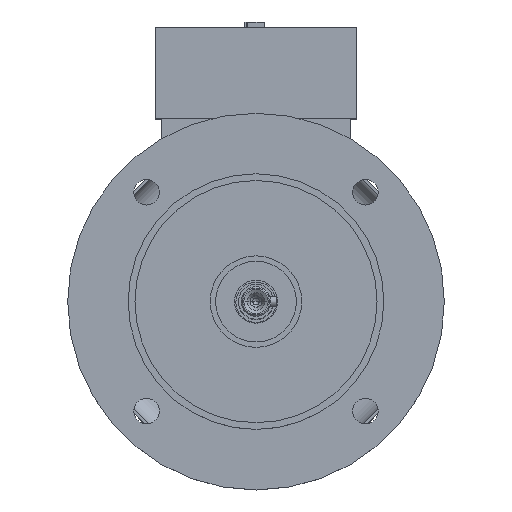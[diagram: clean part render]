
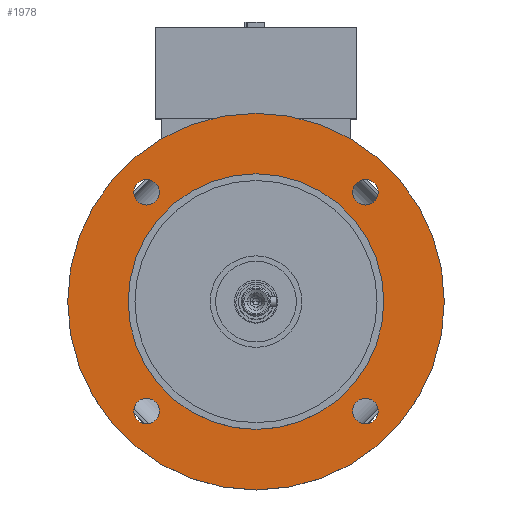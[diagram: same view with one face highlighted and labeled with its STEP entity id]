
A CAD part, top view. The second image highlights one B-rep face of the part: STEP entity #1978.
In plain terms, the highlighted planar face has unit normal (0, 0, 1).
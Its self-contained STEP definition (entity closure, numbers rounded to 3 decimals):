
#16 = CARTESIAN_POINT ( 'NONE',  ( -40.659, -40.659, 80. ) ) ;
#64 = CIRCLE ( 'NONE', #12092, 47.5 ) ;
#118 = AXIS2_PLACEMENT_3D ( 'NONE', #11710, #9525, #2984 ) ;
#273 = CIRCLE ( 'NONE', #10984, 4.75 ) ;
#291 = CIRCLE ( 'NONE', #8524, 70. ) ;
#352 = VERTEX_POINT ( 'NONE', #7012 ) ;
#392 = FACE_BOUND ( 'NONE', #2374, .T. ) ;
#422 = EDGE_CURVE ( 'NONE', #9051, #1855, #12487, .T. ) ;
#543 = DIRECTION ( 'NONE',  ( 1., 0., 0. ) ) ;
#550 = EDGE_CURVE ( 'NONE', #13145, #352, #2663, .T. ) ;
#558 = DIRECTION ( 'NONE',  ( 1., 0., 0. ) ) ;
#584 = CARTESIAN_POINT ( 'NONE',  ( -35.909, 40.659, 80. ) ) ;
#617 = ORIENTED_EDGE ( 'NONE', *, *, #550, .T. ) ;
#732 = EDGE_CURVE ( 'NONE', #1855, #9051, #9578, .T. ) ;
#772 = DIRECTION ( 'NONE',  ( 1., 0., 0. ) ) ;
#1118 = DIRECTION ( 'NONE',  ( 0., 0., 1. ) ) ;
#1139 = DIRECTION ( 'NONE',  ( 1., 0., 0. ) ) ;
#1394 = EDGE_CURVE ( 'NONE', #9315, #6567, #11952, .T. ) ;
#1458 = ORIENTED_EDGE ( 'NONE', *, *, #422, .F. ) ;
#1819 = CARTESIAN_POINT ( 'NONE',  ( -40.659, 40.659, 80. ) ) ;
#1841 = CARTESIAN_POINT ( 'NONE',  ( 70., 0., 80. ) ) ;
#1855 = VERTEX_POINT ( 'NONE', #584 ) ;
#1978 = ADVANCED_FACE ( 'NONE', ( #2778, #7322, #4946, #392, #13317, #4615 ), #10760, .F. ) ;
#2065 = CARTESIAN_POINT ( 'NONE',  ( 0., 0., 80. ) ) ;
#2098 = DIRECTION ( 'NONE',  ( 0., 0., -1. ) ) ;
#2105 = EDGE_LOOP ( 'NONE', ( #12303, #13533 ) ) ;
#2168 = DIRECTION ( 'NONE',  ( 1., 0., 0. ) ) ;
#2248 = DIRECTION ( 'NONE',  ( -1., 0., 0. ) ) ;
#2306 = ORIENTED_EDGE ( 'NONE', *, *, #1394, .F. ) ;
#2374 = EDGE_LOOP ( 'NONE', ( #9830, #1458 ) ) ;
#2386 = EDGE_CURVE ( 'NONE', #5828, #12341, #7474, .T. ) ;
#2579 = CIRCLE ( 'NONE', #11353, 4.75 ) ;
#2663 = CIRCLE ( 'NONE', #118, 70. ) ;
#2699 = EDGE_LOOP ( 'NONE', ( #13710, #13868 ) ) ;
#2778 = FACE_BOUND ( 'NONE', #6692, .T. ) ;
#2984 = DIRECTION ( 'NONE',  ( 1., 0., 0. ) ) ;
#3146 = DIRECTION ( 'NONE',  ( 1., 0., 0. ) ) ;
#3221 = VERTEX_POINT ( 'NONE', #5978 ) ;
#3264 = DIRECTION ( 'NONE',  ( 1., 0., 0. ) ) ;
#3396 = AXIS2_PLACEMENT_3D ( 'NONE', #3769, #13695, #543 ) ;
#3605 = DIRECTION ( 'NONE',  ( 0., 0., 1. ) ) ;
#3647 = CARTESIAN_POINT ( 'NONE',  ( 40.659, -40.659, 80. ) ) ;
#3769 = CARTESIAN_POINT ( 'NONE',  ( 0., 0., 80. ) ) ;
#3882 = VERTEX_POINT ( 'NONE', #8179 ) ;
#4102 = CARTESIAN_POINT ( 'NONE',  ( 0., 0., 80. ) ) ;
#4241 = DIRECTION ( 'NONE',  ( 0., 0., 1. ) ) ;
#4495 = DIRECTION ( 'NONE',  ( 0., 0., 1. ) ) ;
#4537 = CARTESIAN_POINT ( 'NONE',  ( 45.409, 40.659, 80. ) ) ;
#4540 = DIRECTION ( 'NONE',  ( 0., 0., 1. ) ) ;
#4615 = FACE_OUTER_BOUND ( 'NONE', #5699, .T. ) ;
#4906 = CARTESIAN_POINT ( 'NONE',  ( -45.409, 40.659, 80. ) ) ;
#4946 = FACE_BOUND ( 'NONE', #2699, .T. ) ;
#5113 = EDGE_CURVE ( 'NONE', #6567, #9315, #13437, .T. ) ;
#5692 = CARTESIAN_POINT ( 'NONE',  ( 35.909, -40.659, 80. ) ) ;
#5699 = EDGE_LOOP ( 'NONE', ( #617, #8949 ) ) ;
#5828 = VERTEX_POINT ( 'NONE', #5692 ) ;
#5978 = CARTESIAN_POINT ( 'NONE',  ( -45.409, -40.659, 80. ) ) ;
#6253 = DIRECTION ( 'NONE',  ( 0., 0., 1. ) ) ;
#6443 = DIRECTION ( 'NONE',  ( 0., 0., 1. ) ) ;
#6567 = VERTEX_POINT ( 'NONE', #8804 ) ;
#6692 = EDGE_LOOP ( 'NONE', ( #2306, #12806 ) ) ;
#6739 = AXIS2_PLACEMENT_3D ( 'NONE', #8575, #2098, #2248 ) ;
#6851 = CARTESIAN_POINT ( 'NONE',  ( -47.5, 0., 80. ) ) ;
#6892 = EDGE_CURVE ( 'NONE', #352, #13145, #291, .T. ) ;
#7012 = CARTESIAN_POINT ( 'NONE',  ( -70., 0., 80. ) ) ;
#7111 = EDGE_CURVE ( 'NONE', #9822, #11305, #14037, .T. ) ;
#7164 = ORIENTED_EDGE ( 'NONE', *, *, #7111, .F. ) ;
#7322 = FACE_BOUND ( 'NONE', #2105, .T. ) ;
#7444 = CARTESIAN_POINT ( 'NONE',  ( 40.659, 40.659, 80. ) ) ;
#7459 = ORIENTED_EDGE ( 'NONE', *, *, #14058, .F. ) ;
#7474 = CIRCLE ( 'NONE', #10659, 4.75 ) ;
#7680 = CARTESIAN_POINT ( 'NONE',  ( 40.659, -40.659, 80. ) ) ;
#7752 = CIRCLE ( 'NONE', #8696, 4.75 ) ;
#7958 = CARTESIAN_POINT ( 'NONE',  ( 47.5, 0., 80. ) ) ;
#8179 = CARTESIAN_POINT ( 'NONE',  ( -35.909, -40.659, 80. ) ) ;
#8524 = AXIS2_PLACEMENT_3D ( 'NONE', #2065, #4241, #8584 ) ;
#8545 = CARTESIAN_POINT ( 'NONE',  ( -40.659, -40.659, 80. ) ) ;
#8575 = CARTESIAN_POINT ( 'NONE',  ( 0., 47.5, 80. ) ) ;
#8584 = DIRECTION ( 'NONE',  ( 1., 0., 0. ) ) ;
#8656 = DIRECTION ( 'NONE',  ( 0., 0., 1. ) ) ;
#8663 = CARTESIAN_POINT ( 'NONE',  ( 40.659, 40.659, 80. ) ) ;
#8696 = AXIS2_PLACEMENT_3D ( 'NONE', #8545, #8656, #3264 ) ;
#8804 = CARTESIAN_POINT ( 'NONE',  ( 35.909, 40.659, 80. ) ) ;
#8949 = ORIENTED_EDGE ( 'NONE', *, *, #6892, .T. ) ;
#8989 = AXIS2_PLACEMENT_3D ( 'NONE', #8663, #4540, #9896 ) ;
#9051 = VERTEX_POINT ( 'NONE', #4906 ) ;
#9315 = VERTEX_POINT ( 'NONE', #4537 ) ;
#9525 = DIRECTION ( 'NONE',  ( 0., 0., 1. ) ) ;
#9576 = DIRECTION ( 'NONE',  ( 0., 0., 1. ) ) ;
#9578 = CIRCLE ( 'NONE', #10367, 4.75 ) ;
#9593 = DIRECTION ( 'NONE',  ( 1., 0., 0. ) ) ;
#9822 = VERTEX_POINT ( 'NONE', #7958 ) ;
#9830 = ORIENTED_EDGE ( 'NONE', *, *, #732, .F. ) ;
#9896 = DIRECTION ( 'NONE',  ( 1., 0., 0. ) ) ;
#10012 = CARTESIAN_POINT ( 'NONE',  ( -40.659, 40.659, 80. ) ) ;
#10103 = AXIS2_PLACEMENT_3D ( 'NONE', #1819, #13794, #772 ) ;
#10239 = EDGE_CURVE ( 'NONE', #3882, #3221, #2579, .T. ) ;
#10367 = AXIS2_PLACEMENT_3D ( 'NONE', #10012, #6253, #558 ) ;
#10659 = AXIS2_PLACEMENT_3D ( 'NONE', #7680, #6443, #2168 ) ;
#10760 = PLANE ( 'NONE',  #6739 ) ;
#10933 = CARTESIAN_POINT ( 'NONE',  ( 45.409, -40.659, 80. ) ) ;
#10984 = AXIS2_PLACEMENT_3D ( 'NONE', #3647, #3605, #11190 ) ;
#11190 = DIRECTION ( 'NONE',  ( 1., 0., 0. ) ) ;
#11305 = VERTEX_POINT ( 'NONE', #6851 ) ;
#11353 = AXIS2_PLACEMENT_3D ( 'NONE', #16, #4495, #1139 ) ;
#11378 = EDGE_LOOP ( 'NONE', ( #7164, #7459 ) ) ;
#11710 = CARTESIAN_POINT ( 'NONE',  ( 0., 0., 80. ) ) ;
#11952 = CIRCLE ( 'NONE', #12662, 4.75 ) ;
#12092 = AXIS2_PLACEMENT_3D ( 'NONE', #4102, #9576, #3146 ) ;
#12291 = EDGE_CURVE ( 'NONE', #3221, #3882, #7752, .T. ) ;
#12303 = ORIENTED_EDGE ( 'NONE', *, *, #13014, .F. ) ;
#12341 = VERTEX_POINT ( 'NONE', #10933 ) ;
#12487 = CIRCLE ( 'NONE', #10103, 4.75 ) ;
#12662 = AXIS2_PLACEMENT_3D ( 'NONE', #7444, #1118, #9593 ) ;
#12806 = ORIENTED_EDGE ( 'NONE', *, *, #5113, .F. ) ;
#13014 = EDGE_CURVE ( 'NONE', #12341, #5828, #273, .T. ) ;
#13145 = VERTEX_POINT ( 'NONE', #1841 ) ;
#13317 = FACE_BOUND ( 'NONE', #11378, .T. ) ;
#13437 = CIRCLE ( 'NONE', #8989, 4.75 ) ;
#13533 = ORIENTED_EDGE ( 'NONE', *, *, #2386, .F. ) ;
#13695 = DIRECTION ( 'NONE',  ( 0., 0., 1. ) ) ;
#13710 = ORIENTED_EDGE ( 'NONE', *, *, #10239, .F. ) ;
#13794 = DIRECTION ( 'NONE',  ( 0., 0., 1. ) ) ;
#13868 = ORIENTED_EDGE ( 'NONE', *, *, #12291, .F. ) ;
#14037 = CIRCLE ( 'NONE', #3396, 47.5 ) ;
#14058 = EDGE_CURVE ( 'NONE', #11305, #9822, #64, .T. ) ;
